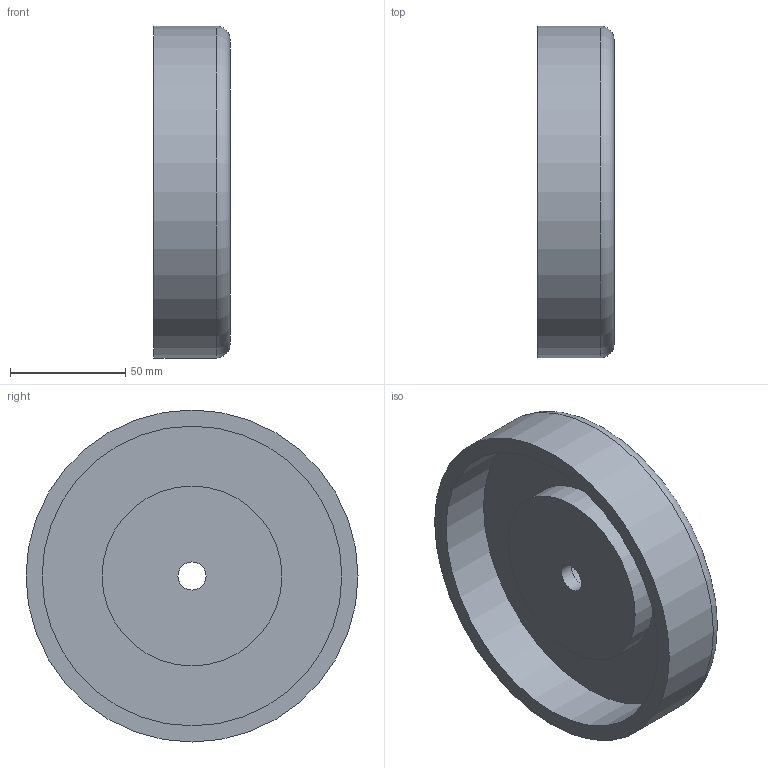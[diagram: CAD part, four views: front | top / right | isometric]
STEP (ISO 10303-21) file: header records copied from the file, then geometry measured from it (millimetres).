
FILE_DESCRIPTION(/* description */ (''),/* implementation_level */ '2;1');
FILE_NAME(/* name */ 'Z:\Geberit\Export\NewStep\367809.stp',/* time_stamp */ '2014-04-02T07:58:33+02:00',/* author */ ('Marco'),/* organization */ (''),/* preprocessor_version */ 'ST-DEVELOPER v15.2',/* originating_system */ 'Autodesk Inventor 2014',/* authorisation */ '');
FILE_SCHEMA (('AUTOMOTIVE_DESIGN { 1 0 10303 214 3 1 1 }'));
Length unit declared in the file: millimetre
Products named in the file (2): 887373; 367809
Bounding box: 33 x 144 x 144 mm (x, y, z)
Volume: 249268.4 mm3; surface area: 66293.3 mm2
Topology: 1 solids, 1 shells, 42 faces, 93 edges, 62 vertices
Faces by surface type: cylinder 22, plane 19, torus 1
Full cylindrical faces by diameter (mm): 8 x2, 12.2 x1, 78 x1, 130 x1, 144 x1
Entity records: 1224 total; most frequent: DIRECTION 220, CARTESIAN_POINT 191, ORIENTED_EDGE 170, AXIS2_PLACEMENT_3D 90, EDGE_CURVE 85, VERTEX_POINT 61, EDGE_LOOP 60, CIRCLE 45
